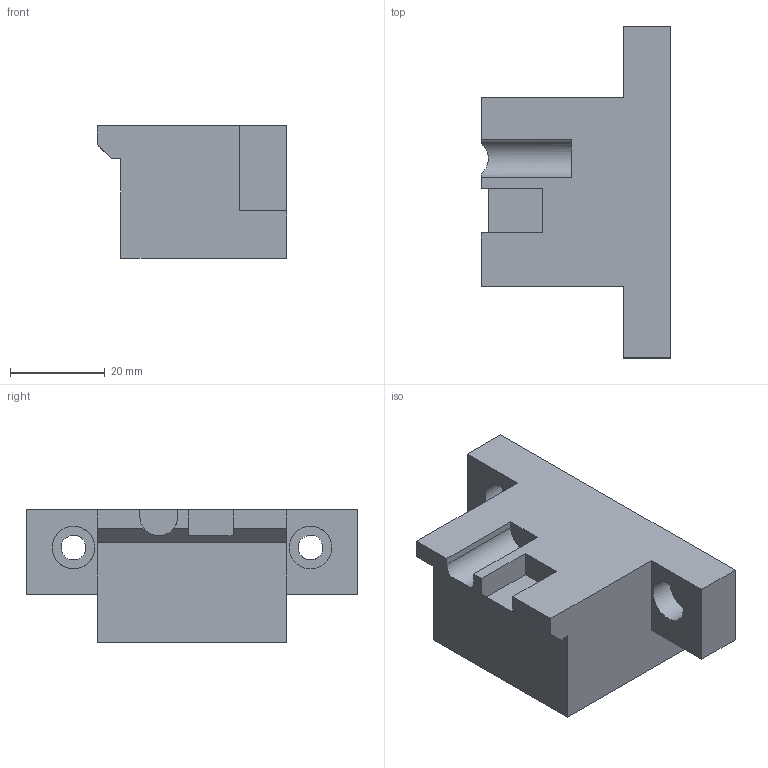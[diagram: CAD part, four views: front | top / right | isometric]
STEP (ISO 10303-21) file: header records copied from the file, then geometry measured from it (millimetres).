
FILE_DESCRIPTION(('CATIA V5 STEP Exchange'),'2;1');
FILE_NAME('G:\够快云库\系统集成开发部\1.部门成员\孙国\工装\接头插管\H4气嘴接头\STP\GZ-QZJT.01_V1 H4气嘴接头固定座.stp','2021-03-18T08:43:38+00:00',('none'),('none'),'CATIA Version 5 Release 20 GA (IN-10)','CATIA V5 STEP AP214','none');
FILE_SCHEMA(('AUTOMOTIVE_DESIGN { 1 0 10303 214 1 1 1 1 }'));
Length unit declared in the file: millimetre
Products named in the file (1): 固定座06
Bounding box: 40 x 70 x 28 mm (x, y, z)
Volume: 43186 mm3; surface area: 10102.5 mm2
Topology: 1 solids, 1 shells, 41 faces, 105 edges, 70 vertices
Faces by surface type: plane 28, cylinder 13
Entity records: 1287 total; most frequent: CARTESIAN_POINT 299, ORIENTED_EDGE 210, DIRECTION 165, EDGE_CURVE 105, VECTOR 77, LINE 77, VERTEX_POINT 70, AXIS2_PLACEMENT_3D 56
